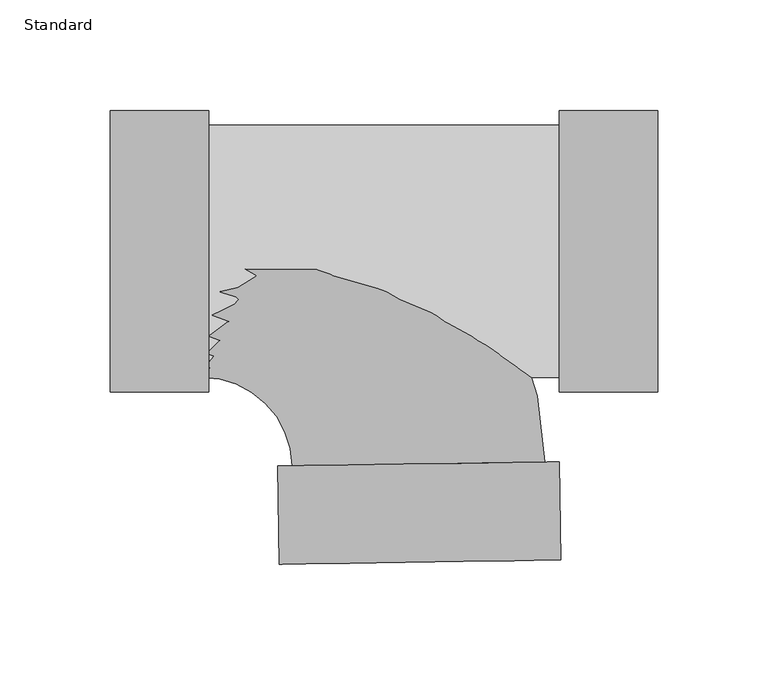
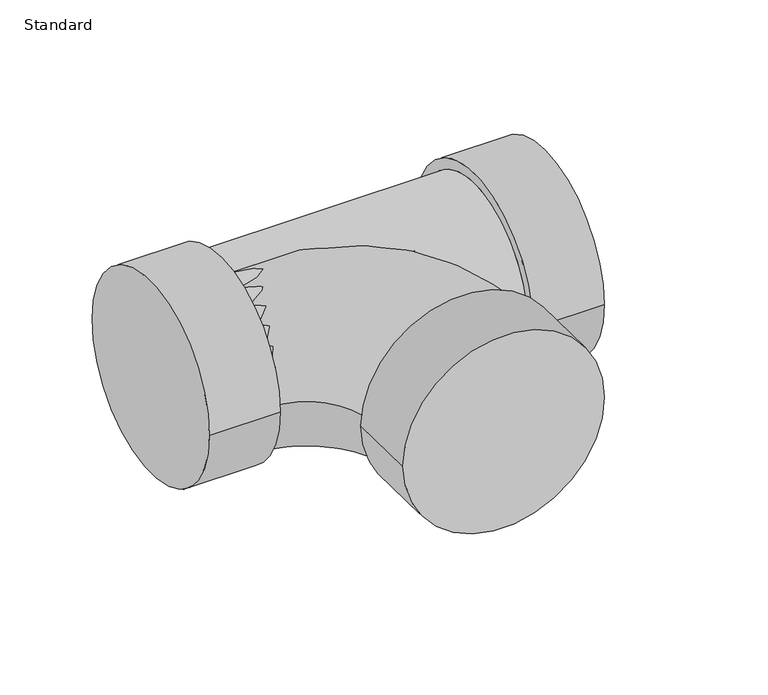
"""IFC4 building model written with IfcOpenShell, lengths in millimetres: pipe fitting geometry, EG-RCAN Té sanitaire de réduction - PVC - Nom. 40 - DWV : Standard."""

import ifcopenshell
import ifcopenshell.guid

model = None  # the IFC model being written
_history = None  # IfcOwnerHistory: only IFC2X3 demands one
_inside = {}  # id of a spatial element -> (the spatial element, [elements in it])
_under = {}  # id of a project, library or spatial element -> (it, [spatial elements below it])
_declared = {}  # id of a project -> (the project, [libraries it declares])
_typed = {}  # id of a type object -> (the type object, [elements of that type])
_made_of = {}  # id of a material, layer set ... -> (it, [elements and type objects made of it])


def new_model(schema):
    """Start an empty IFC model of exactly this schema.

    Asked for "IFC4X3", IfcOpenShell would pick the latest addendum, in which some entities
    have other attributes; the version numbers below select the first issue.
    IFC2X3 requires an IfcOwnerHistory on every rooted entity: one is made here for all.
    """
    global model, _history
    if schema == "IFC4X3":
        model = ifcopenshell.file(schema_version=(4, 3, 0, 0))
    else:
        model = ifcopenshell.file(schema=schema)
    _inside.clear()
    _under.clear()
    _declared.clear()
    _typed.clear()
    _made_of.clear()
    _history = None
    if model.schema == "IFC2X3":
        org = make("IfcOrganization", Name="unknown")
        user = make(
            "IfcPersonAndOrganization",
            ThePerson=make("IfcPerson", FamilyName="unknown"),
            TheOrganization=org,
        )
        app = make(
            "IfcApplication",
            ApplicationDeveloper=org,
            Version="unknown",
            ApplicationFullName="unknown",
            ApplicationIdentifier="unknown",
        )
        _history = make(
            "IfcOwnerHistory",
            OwningUser=user,
            OwningApplication=app,
            ChangeAction="ADDED",
            CreationDate=0,
        )
    return model


def make(cls, **values):
    """One entity of the class cls with the attributes given. An attribute that is None is left unset."""
    return model.create_entity(
        cls, **{name: value for name, value in values.items() if value is not None}
    )


def rooted(cls, **values):
    """An entity with a GlobalId (a new one), such as an element, a storey or a relation."""
    return make(cls, GlobalId=ifcopenshell.guid.new(), OwnerHistory=_history, **values)


def si_unit(unit_type, name, prefix=None):
    """IfcSIUnit, for example si_unit("LENGTHUNIT", "METRE", prefix="MILLI")."""
    return make("IfcSIUnit", UnitType=unit_type, Prefix=prefix, Name=name)


def assignment(units):
    """IfcUnitAssignment: the units of a project."""
    return None if units is None else make("IfcUnitAssignment", Units=units)


def point(xyz):
    """IfcCartesianPoint."""
    return None if xyz is None else make("IfcCartesianPoint", Coordinates=xyz)


def direction(xyz):
    """IfcDirection."""
    return None if xyz is None else make("IfcDirection", DirectionRatios=xyz)


def frame(location, z_axis=None, x_axis=None):
    """IfcAxis2Placement3D, a coordinate frame: its origin and axes. An axis left out is left unset."""
    return make(
        "IfcAxis2Placement3D",
        Location=point(location),
        Axis=direction(z_axis),
        RefDirection=direction(x_axis),
    )


def origin():
    """The frame at (0, 0, 0) with its axes left unset."""
    return frame((0.0, 0.0, 0.0))


def place(relative_to, where):
    """IfcLocalPlacement: puts the frame where relative to a parent placement (None: the world)."""
    return make(
        "IfcLocalPlacement", PlacementRelTo=relative_to, RelativePlacement=where
    )


def context(
    kind, dimensions, precision=None, world=None, true_north=None, identifier=None
):
    """IfcGeometricRepresentationContext, for example the 3D "Model" context."""
    return make(
        "IfcGeometricRepresentationContext",
        ContextIdentifier=identifier,
        ContextType=kind,
        CoordinateSpaceDimension=dimensions,
        Precision=precision,
        WorldCoordinateSystem=world,
        TrueNorth=true_north,
    )


def project(units=None, contexts=None):
    """IfcProject with its units and contexts."""
    return rooted(
        "IfcProject",
        Name="project",
        RepresentationContexts=contexts,
        UnitsInContext=assignment(units),
    )


def spatial(cls, under=None, at=None, **own):
    """A site, building, storey or space (cls), placed at a placement, below another one or the project."""
    s = rooted(cls, ObjectPlacement=at, **own)
    if under is not None:
        _under.setdefault(under.id(), (under, []))[1].append(s)
    return s


def circle_curve(where, radius):
    """IfcCircle in the frame where."""
    return make("IfcCircle", Position=where, Radius=radius)


def ellipse_curve(where, semi_axis1, semi_axis2):
    """IfcEllipse in the frame where."""
    return make(
        "IfcEllipse", Position=where, SemiAxis1=semi_axis1, SemiAxis2=semi_axis2
    )


def trimmed(basis, trim1, trim2, sense, master):
    """IfcTrimmedCurve: the piece of a basis curve between two trims."""
    return make(
        "IfcTrimmedCurve",
        BasisCurve=basis,
        Trim1=trim1,
        Trim2=trim2,
        SenseAgreement=sense,
        MasterRepresentation=master,
    )


def shape(context_of_items, identifier, shape_type, items):
    """IfcShapeRepresentation: the items that make up one representation, for example the "Body"."""
    return make(
        "IfcShapeRepresentation",
        ContextOfItems=context_of_items,
        RepresentationIdentifier=identifier,
        RepresentationType=shape_type,
        Items=items,
    )


def source(mapping_origin, context_of_items, identifier, shape_type, items):
    """IfcRepresentationMap: a shape defined once, which mapped items show again and again."""
    return make(
        "IfcRepresentationMap",
        MappingOrigin=mapping_origin,
        MappedRepresentation=shape(context_of_items, identifier, shape_type, items),
    )


def transform(
    local_origin,
    x_axis=None,
    y_axis=None,
    z_axis=None,
    scale=None,
    scale2=None,
    scale3=None,
    uniform=True,
):
    """IfcCartesianTransformationOperator3D, or its non-uniform kind. x_axis, y_axis, z_axis: its Axis1, 2, 3."""
    if uniform:
        return make(
            "IfcCartesianTransformationOperator3D",
            Axis1=direction(x_axis),
            Axis2=direction(y_axis),
            LocalOrigin=point(local_origin),
            Scale=scale,
            Axis3=direction(z_axis),
        )
    return make(
        "IfcCartesianTransformationOperator3DnonUniform",
        Axis1=direction(x_axis),
        Axis2=direction(y_axis),
        LocalOrigin=point(local_origin),
        Scale=scale,
        Axis3=direction(z_axis),
        Scale2=scale2,
        Scale3=scale3,
    )


def mapped(mapping_source, mapping_target):
    """IfcMappedItem: shows the shape of a source again, moved by a transform."""
    return make(
        "IfcMappedItem", MappingSource=mapping_source, MappingTarget=mapping_target
    )


def made_of(thing, what):
    """Note that an element or type object is made of a material, layer set ...; save() writes the relation."""
    if what is not None:
        _made_of.setdefault(what.id(), (what, []))[1].append(thing)
    return thing


def element(
    cls,
    number,
    at=None,
    inside=None,
    cuts=None,
    type_object=None,
    material=None,
    context=None,
    identifier="Body",
    shape_type=None,
    held_by="IfcProductDefinitionShape",
    body=None,
    shapes=None,
    **own,
):
    """One element of the class cls, such as IfcWall. Its Tag is "e" and its number.

    at: its placement. inside: the storey or other place that contains it. cuts: it is an
    opening in that element (IfcRelVoidsElement). A single representation is given by context,
    identifier, shape_type and body (its items); several are given by shapes. held_by: the class
    of the entity that holds the representations. save() writes the other relations.
    """
    e = rooted(cls, Tag="e%d" % number, ObjectPlacement=at, **own)
    if body is not None:
        shapes = [shape(context, identifier, shape_type, body)]
    if shapes is not None:
        e.Representation = make(held_by, Representations=shapes)
    if inside is not None:
        _inside.setdefault(inside.id(), (inside, []))[1].append(e)
    if cuts is not None:
        rooted(
            "IfcRelVoidsElement", RelatingBuildingElement=cuts, RelatedOpeningElement=e
        )
    if type_object is not None:
        _typed.setdefault(type_object.id(), (type_object, []))[1].append(e)
    return made_of(e, material)


def aggregate(whole, parts):
    """IfcRelAggregates: a whole, such as a stair, and the parts it consists of."""
    return rooted("IfcRelAggregates", RelatingObject=whole, RelatedObjects=parts)


def save(model, path):
    """Write the relations noted so far, then the file.

    IfcRelAggregates (storeys below a building ...), IfcRelContainedInSpatialStructure (elements
    in a storey), IfcRelDefinesByType, IfcRelAssociatesMaterial and IfcRelDeclares: one each for
    every whole, place, type object, material and project.
    """
    for whole, parts in _under.values():
        aggregate(whole, parts)
    for where, things in _inside.values():
        rooted(
            "IfcRelContainedInSpatialStructure",
            RelatedElements=things,
            RelatingStructure=where,
        )
    for kind, things in _typed.values():
        rooted("IfcRelDefinesByType", RelatedObjects=things, RelatingType=kind)
    for what, things in _made_of.values():
        rooted("IfcRelAssociatesMaterial", RelatedObjects=things, RelatingMaterial=what)
    for by, libraries in _declared.values():
        rooted("IfcRelDeclares", RelatingContext=by, RelatedDefinitions=libraries)
    model.write(path)


def plane_surface(at):
    """IfcPlane: the flat surface through the origin of the frame at, square to its z axis."""
    return make("IfcPlane", Position=at)


def cylinder_surface(at, radius):
    """IfcCylindricalSurface: all points at the distance radius from the z axis of the frame at."""
    return make("IfcCylindricalSurface", Position=at, Radius=radius)


def revolved_surface(curve, axis_point, axis_direction):
    """IfcSurfaceOfRevolution: the curve turned about the line through axis_point along axis_direction."""
    return make(
        "IfcSurfaceOfRevolution",
        SweptCurve=make("IfcArbitraryOpenProfileDef", ProfileType="CURVE", Curve=curve),
        AxisPosition=make("IfcAxis1Placement", Location=point(axis_point), Axis=direction(axis_direction)),
    )


def advanced_brep(points, edges, surfaces, faces):
    """IfcAdvancedBrep: a solid bounded by faces that lie on surfaces and meet in shared edges.

    An edge is (start, end): straight between two places in points (the first is 0);
    or (start, end, curve); or (start, end, curve, False) where it runs against its curve.
    A face is (place in surfaces, loops), or (place, loops, False) where it looks against
    its surface's normal. A loop lists edges by number (the first is 1), with a minus sign
    where the edge is run from its end to its start. The first loop is the outer one.
    """
    corners = [point(p) for p in points]
    vertices = [make("IfcVertexPoint", VertexGeometry=c) for c in corners]
    made = []
    for start, end, *more in edges:
        made.append(
            make(
                "IfcEdgeCurve",
                EdgeStart=vertices[start],
                EdgeEnd=vertices[end],
                EdgeGeometry=more[0] if more else make("IfcPolyline", Points=[corners[start], corners[end]]),
                SameSense=more[1] if len(more) > 1 else True,
            )
        )
    hull = []
    for where, loops, *sense in faces:
        bounds = []
        for j, loop in enumerate(loops):
            ring = [make("IfcOrientedEdge", EdgeElement=made[abs(k) - 1], Orientation=k > 0) for k in loop]
            bounds.append(
                make(
                    "IfcFaceOuterBound" if j == 0 else "IfcFaceBound",
                    Bound=make("IfcEdgeLoop", EdgeList=ring),
                    Orientation=True,
                )
            )
        hull.append(make("IfcAdvancedFace", Bounds=bounds, FaceSurface=surfaces[where], SameSense=sense[0] if sense else True))
    return make("IfcAdvancedBrep", Outer=make("IfcClosedShell", CfsFaces=hull))


def standard_f91cfe7f(model_context):
    return source(origin(), model_context, "Body", "AdvancedBrep", [
        advanced_brep(
        [(65.2086663, -63.754, 0.0), (65.2086663, 63.754, 0.0), (65.2086663, -57.15, 0.0), (65.2086663, 57.15, 0.0), (109.6586663, -63.754, 0.0), (109.6586663, 63.754, 0.0), (-93.4599062, 57.15, 0.0), (-93.4599062, -57.15, 0.0), (-137.9099062, -63.754, 0.0), (-137.9099062, 63.754, 0.0), (-93.4599062, -63.754, 0.0), (-93.4599062, 63.754, 0.0)],
        [
            (0, 1, circle_curve(frame((65.2086663, 0.0, 0.0), z_axis=(-1.0, 0.0, 0.0), x_axis=(0.0, 1.0, 0.0)), 63.754)),
            (1, 0, circle_curve(frame((65.2086663, 0.0, 0.0), z_axis=(-1.0, 0.0, 0.0), x_axis=(0.0, 1.0, 0.0)), 63.754)),
            (2, 3, circle_curve(frame((65.2086663, 0.0, 0.0), z_axis=(1.0, 0.0, 0.0), x_axis=(0.0, 0.0, -1.0)), 57.15)),
            (3, 2, circle_curve(frame((65.2086663, 0.0, 0.0), z_axis=(1.0, 0.0, 0.0), x_axis=(0.0, 0.0, 1.0)), 57.15)),
            (4, 5, circle_curve(frame((109.6586663, 0.0, 0.0), z_axis=(1.0, 0.0, 0.0), x_axis=(0.0, 1.0, 0.0)), 63.754)),
            (5, 4, circle_curve(frame((109.6586663, 0.0, 0.0), z_axis=(1.0, 0.0, 0.0), x_axis=(0.0, 1.0, 0.0)), 63.754)),
            (0, 4),
            (5, 1),
            (6, 3),
            (2, 7),
            (7, 6, circle_curve(frame((-93.4599062, 0.0, 0.0), z_axis=(1.0, 0.0, 0.0), x_axis=(0.0, 0.0, -1.0)), 57.15)),
            (6, 7, circle_curve(frame((-93.4599062, 0.0, 0.0), z_axis=(1.0, 0.0, 0.0), x_axis=(0.0, 0.0, 1.0)), 57.15)),
            (8, 9, circle_curve(frame((-137.9099062, 0.0, 0.0), z_axis=(-1.0, 0.0, 0.0), x_axis=(0.0, 1.0, 0.0)), 63.754)),
            (9, 8, circle_curve(frame((-137.9099062, 0.0, 0.0), z_axis=(-1.0, 0.0, 0.0), x_axis=(0.0, 1.0, 0.0)), 63.754)),
            (10, 11, circle_curve(frame((-93.4599062, 0.0, 0.0), z_axis=(1.0, 0.0, 0.0), x_axis=(0.0, 1.0, 0.0)), 63.754)),
            (11, 10, circle_curve(frame((-93.4599062, 0.0, 0.0), z_axis=(1.0, 0.0, 0.0), x_axis=(0.0, 1.0, 0.0)), 63.754)),
            (8, 10),
            (11, 9),
        ],
        [
            plane_surface(frame((65.2086663, 0.0, 0.0), z_axis=(-1.0, 0.0, 0.0), x_axis=(0.0, 0.0, 1.0))),
            plane_surface(frame((109.6586663, 0.0, 0.0), z_axis=(1.0, 0.0, 0.0), x_axis=(0.0, 0.0, 1.0))),
            cylinder_surface(frame((65.2086663, 0.0, 0.0), z_axis=(-1.0, 0.0, 0.0), x_axis=(0.0, 1.0, 0.0)), 63.754),
            cylinder_surface(frame((-93.4599062, 0.0, 0.0), z_axis=(1.0, 0.0, 0.0), x_axis=(0.0, 0.0, -1.0)), 57.15),
            cylinder_surface(frame((-93.4599062, 0.0, 0.0), z_axis=(1.0, 0.0, 0.0), x_axis=(0.0, 0.0, 1.0)), 57.15),
            plane_surface(frame((-137.9099062, 0.0, 0.0), z_axis=(-1.0, 0.0, 0.0), x_axis=(0.0, 0.0, 1.0))),
            plane_surface(frame((-93.4599062, 0.0, 0.0), z_axis=(1.0, 0.0, 0.0), x_axis=(0.0, 0.0, 1.0))),
            cylinder_surface(frame((-137.9099062, 0.0, 0.0), z_axis=(-1.0, 0.0, 0.0), x_axis=(0.0, 1.0, 0.0)), 63.754),
        ],
        [
            (0, [[1, 2], [3, 4]]),
            (1, [[5, 6]]),
            (2, [[-1, 7, -6, 8]]),
            (2, [[-2, -8, -5, -7]]),
            (3, [[9, -3, 10, 11]]),
            (4, [[-9, 12, -10, -4]]),
            (5, [[13, 14]]),
            (6, [[15, 16], [-11, -12]]),
            (7, [[-13, 17, -16, 18]]),
            (7, [[-14, -18, -15, -17]]),
        ],
    ),
        advanced_brep(
        [(-62.284653, -97.3039844, 0.0), (65.2086663, -95.3691419, 0.0), (58.6054266, -95.4693529, 0.0), (-55.6814133, -97.2037735, 0.0), (-61.610156, -141.7488666, 0.0), (65.8831632, -139.8140241, 0.0), (-96.3476562, -57.15, 0.0), (-96.3476562, 57.15, 0.0)],
        [
            (0, 1, circle_curve(frame((1.4620067, -96.3365632, 0.0), z_axis=(-0.015174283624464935, 0.9998848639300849, 0.0), x_axis=(0.9998848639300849, 0.015174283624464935, 0.0)), 63.754)),
            (1, 0, circle_curve(frame((1.4620067, -96.3365632, 0.0), z_axis=(-0.015174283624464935, 0.9998848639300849, 0.0), x_axis=(0.9998848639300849, 0.015174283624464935, 0.0)), 63.754)),
            (2, 3, circle_curve(frame((1.4620067, -96.3365632, 0.0), z_axis=(0.015174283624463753, -0.9998848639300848, 0.0), x_axis=(0.9998848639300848, 0.015174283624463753, 0.0)), 57.15)),
            (3, 2, circle_curve(frame((1.4620067, -96.3365632, 0.0), z_axis=(0.015174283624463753, -0.9998848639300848, 0.0), x_axis=(0.9998848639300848, 0.015174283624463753, 0.0)), 57.15)),
            (4, 5, circle_curve(frame((2.1365036, -140.7814454, 0.0), z_axis=(0.015174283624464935, -0.9998848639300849, 0.0), x_axis=(0.9998848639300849, 0.015174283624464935, 0.0)), 63.754)),
            (5, 4, circle_curve(frame((2.1365036, -140.7814454, 0.0), z_axis=(0.015174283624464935, -0.9998848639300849, 0.0), x_axis=(0.9998848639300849, 0.015174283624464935, 0.0)), 63.754)),
            (0, 4),
            (5, 1),
            (6, 7, circle_curve(frame((-96.3476562, 0.0, 0.0), z_axis=(-1.0, 0.0, 0.0), x_axis=(0.0, 1.0, 0.0)), 57.15)),
            (7, 6, circle_curve(frame((-96.3476562, 0.0, 0.0), z_axis=(-1.0, 0.0, 0.0), x_axis=(0.0, 1.0, 0.0)), 57.15)),
            (6, 3, circle_curve(frame((-96.3476562, -97.8209256, 0.0), z_axis=(0.0, 0.0, -1.0), x_axis=(0.0, 1.0, 0.0)), 40.6709256)),
            (2, 7, circle_curve(frame((-96.3476562, -97.8209256, 0.0), z_axis=(0.0, 0.0, 1.0), x_axis=(0.0, 1.0, 0.0)), 154.9709256)),
        ],
        [
            plane_surface(frame((1.4620067, -96.3365632, 0.0), z_axis=(-0.015174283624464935, 0.9998848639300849, 0.0), x_axis=(0.0, 0.0, 1.0))),
            plane_surface(frame((2.1365036, -140.7814454, 0.0), z_axis=(0.015174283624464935, -0.9998848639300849, 0.0), x_axis=(0.0, 0.0, 1.0))),
            cylinder_surface(frame((1.4620067, -96.3365632, 0.0), z_axis=(-0.015174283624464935, 0.9998848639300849, 0.0), x_axis=(0.9998848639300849, 0.015174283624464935, 0.0)), 63.754),
            plane_surface(frame((-96.3476562, 0.0, 0.0), z_axis=(-1.0, 0.0, 0.0), x_axis=(0.0, 0.0, 1.0))),
            revolved_surface(trimmed(ellipse_curve(frame((-96.3476562, 0.0, 0.0), z_axis=(-1.0, 0.0, 0.0), x_axis=(0.0, 1.0, 0.0)), 57.15, 57.15), [point((-96.3476562, -57.15, 0.0))], [point((-96.3476562, 57.15, 0.0))], True, "CARTESIAN"), (-96.3476562, -97.8209256, 0.0), (0.0, 0.0, -1.0)),
            revolved_surface(trimmed(ellipse_curve(frame((-96.3476562, 0.0, 0.0), z_axis=(-1.0, 0.0, 0.0), x_axis=(0.0, 1.0, 0.0)), 57.15, 57.15), [point((-96.3476562, 57.15, 0.0))], [point((-96.3476562, -57.15, 0.0))], True, "CARTESIAN"), (-96.3476562, -97.8209256, 0.0), (0.0, 0.0, -1.0)),
        ],
        [
            (0, [[1, 2], [3, 4]]),
            (1, [[5, 6]]),
            (2, [[-1, 7, -6, 8]]),
            (2, [[-2, -8, -5, -7]]),
            (3, [[9, 10]]),
            (4, [[-9, 11, -3, 12]]),
            (5, [[-10, -12, -4, -11]]),
        ],
    ),
    ])


if __name__ == "__main__":
    model = new_model("IFC4")
    model_context = context("Model", 3, world=origin())
    ifc_project = project(units=[si_unit("LENGTHUNIT", "METRE", prefix="MILLI")], contexts=[model_context])
    site = spatial("IfcSite", under=ifc_project)
    building = spatial("IfcBuilding", under=site)
    placement = place(None, origin())
    standard_shape = standard_f91cfe7f(model_context)
    element("IfcPipeFitting", 1, ObjectType="EG-RCAN Té sanitaire de réduction - PVC - Nom. 40 - DWV : Standard", at=placement, inside=building, context=model_context, shape_type="MappedRepresentation", body=[
        mapped(standard_shape, transform((0.0, 0.0, 0.0), x_axis=(1.0, 0.0, 0.0), y_axis=(0.0, 1.0, 0.0), z_axis=(0.0, 0.0, 1.0))),
    ])
    save(model, "model.ifc")
